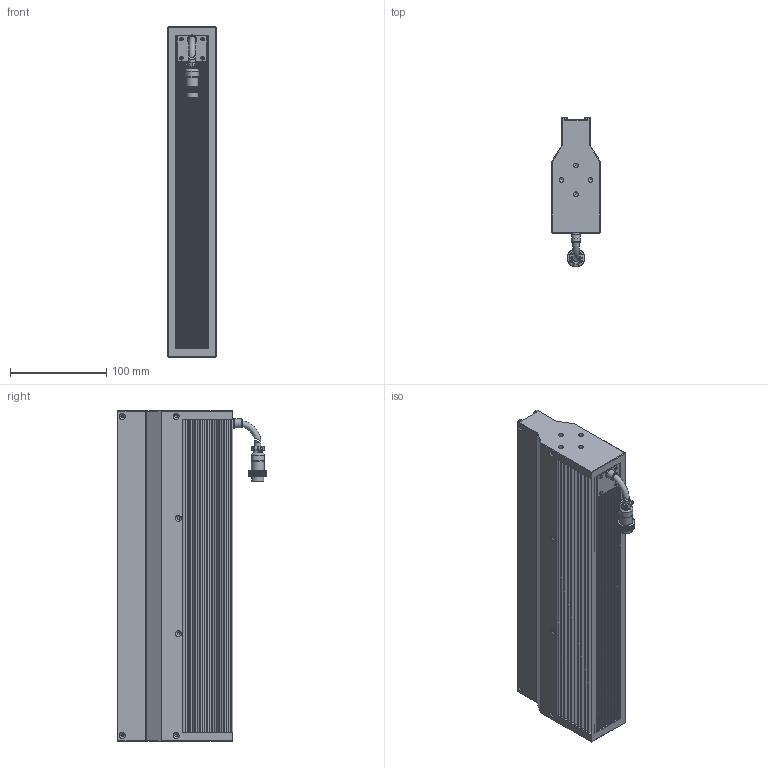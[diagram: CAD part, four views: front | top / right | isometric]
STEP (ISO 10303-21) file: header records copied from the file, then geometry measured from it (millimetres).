
FILE_DESCRIPTION (( 'STEP AP203' ), '1' );
FILE_NAME ('OPT-LSNL344-R-V1.1U尨砩芞.STEP', '2025-02-17T11:01:47', ( '' ), ( '' ), 'SwSTEP 2.0', 'SolidWorks 2016', '' );
FILE_SCHEMA (( 'CONFIG_CONTROL_DESIGN' ));
Products named in the file (1): OPT-LSNL344-R-V1.1U尨砩芞
Bounding box: 50.02 x 155.15 x 344 mm (x, y, z)
Volume: 1260885.6 mm3; surface area: 431925.9 mm2
Topology: 6 solids, 9 shells, 3595 faces, 8194 edges, 4623 vertices
Faces by surface type: bspline 2059, cylinder 751, plane 744, cone 33, torus 8
Full cylindrical faces by diameter (mm): 0.95 x6, 1.1 x2, 1.4 x2, 2 x4, 2.5 x8, 3 x8, 3.4 x12, 3.5 x4, 5 x8, 6.4 x3, 7.5 x1, 8.6 x1, 9.3 x1, 9.8 x1, 10 x1, 13.2 x1, 14 x1, 16.1 x1
Entity records: 125394 total; most frequent: CARTESIAN_POINT 64118, ORIENTED_EDGE 16054, EDGE_CURVE 8027, DIRECTION 5939, B_SPLINE_CURVE_WITH_KNOTS 5571, VERTEX_POINT 4566, EDGE_LOOP 3767, FACE_OUTER_BOUND 3668
